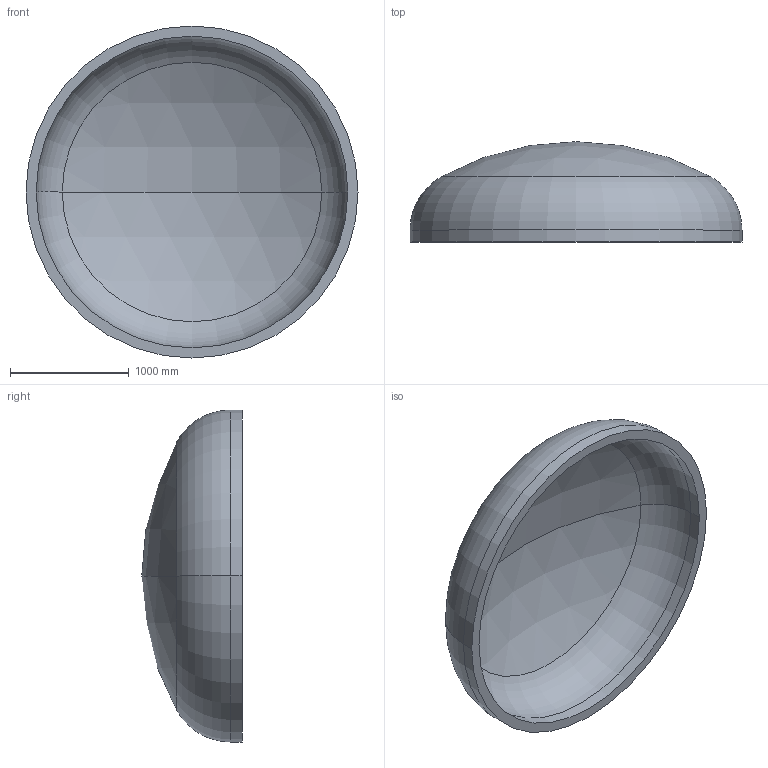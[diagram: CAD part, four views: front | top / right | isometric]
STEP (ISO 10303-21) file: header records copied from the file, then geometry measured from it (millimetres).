
FILE_DESCRIPTION (( 'STEP AP203' ), '1' );
FILE_NAME ('DIN 28013 Korbbogenform_-_Boden DIN 28013 - 2800 x 100 - I - s=86.step', '2016-07-01T17:13:55', ( '' ), ( '' ), 'SwSTEP 2.0', 'SolidWorks 2013', '' );
FILE_SCHEMA (( 'CONFIG_CONTROL_DESIGN' ));
Length unit declared in the file: millimetre
Products named in the file (1): DIN 28013 Korbbogenform_-_Boden DIN 28013 - 2800 x 100 - I - s=86
Bounding box: 2800 x 846.56 x 2800 mm (x, y, z)
Volume: 777517304.8 mm3; surface area: 18830542.4 mm2
Topology: 1 solids, 1 shells, 13 faces, 24 edges, 14 vertices
Faces by surface type: torus 4, cylinder 4, sphere 4, plane 1
Entity records: 407 total; most frequent: DIRECTION 72, CARTESIAN_POINT 52, ORIENTED_EDGE 48, AXIS2_PLACEMENT_3D 34, EDGE_CURVE 24, CIRCLE 20, EDGE_LOOP 14, VERTEX_POINT 14
